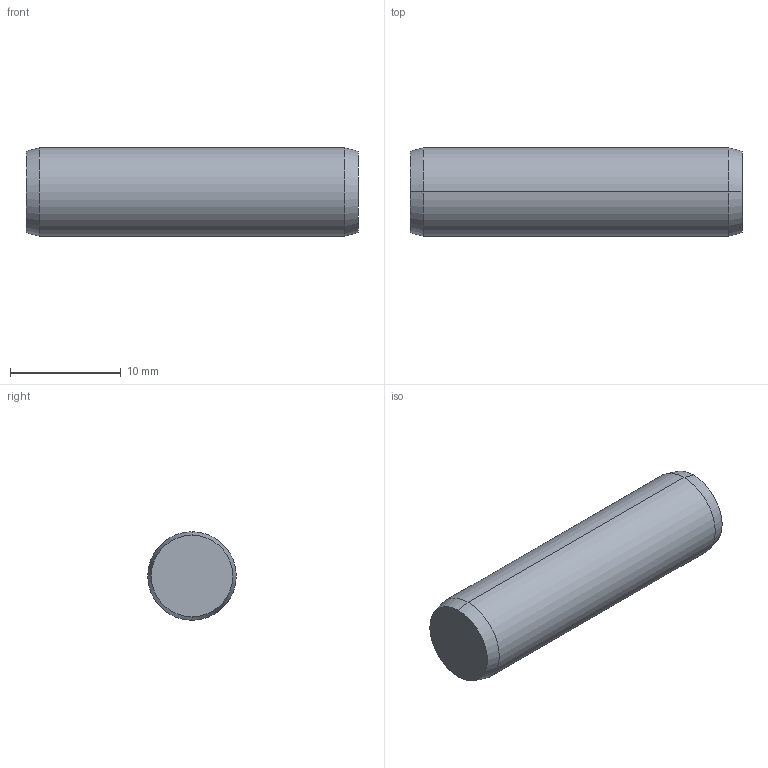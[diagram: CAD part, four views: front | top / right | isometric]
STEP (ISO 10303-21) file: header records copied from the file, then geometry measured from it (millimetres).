
FILE_DESCRIPTION (( 'STEP AP203' ), '1' );
FILE_NAME ('P1206.080-030.step', '2017-06-14T08:27:01', ( 'User' ), ( '' ), 'SwSTEP 2.0', 'SolidWorks 2009', '' );
FILE_SCHEMA (( 'CONFIG_CONTROL_DESIGN' ));
Length unit declared in the file: millimetre
Products named in the file (1): P1206.080-030
Bounding box: 30 x 8 x 8 mm (x, y, z)
Volume: 1498.5 mm3; surface area: 838.6 mm2
Topology: 1 solids, 1 shells, 8 faces, 14 edges, 8 vertices
Faces by surface type: cone 4, cylinder 2, plane 2
Entity records: 271 total; most frequent: DIRECTION 40, CARTESIAN_POINT 31, ORIENTED_EDGE 28, AXIS2_PLACEMENT_3D 17, EDGE_CURVE 14, VERTEX_POINT 8, EDGE_LOOP 8, ADVANCED_FACE 8
